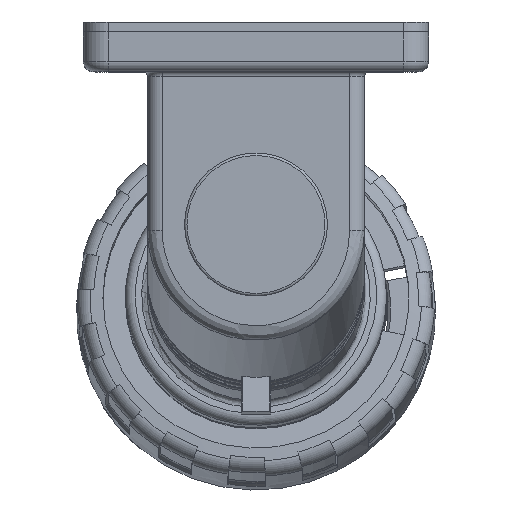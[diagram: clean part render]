
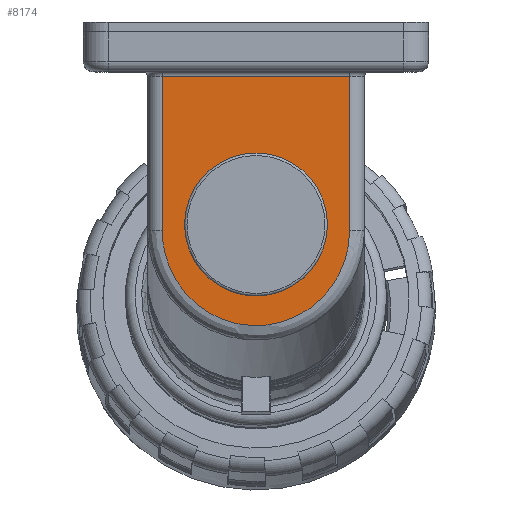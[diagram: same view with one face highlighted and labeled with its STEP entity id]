
A CAD part, top view. The second image highlights one B-rep face of the part: STEP entity #8174.
In plain terms, the highlighted planar face has unit normal (0, 0, 1).
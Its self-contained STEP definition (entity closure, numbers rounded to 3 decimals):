
#1648=FACE_BOUND('',#11912,.T.);
#1649=FACE_BOUND('',#11913,.T.);
#1765=ELLIPSE('',#29057,19.293,19.);
#4178=LINE('',#45972,#6312);
#4179=LINE('',#45974,#6313);
#4191=LINE('',#46056,#6325);
#6312=VECTOR('',#34684,1.);
#6313=VECTOR('',#34687,1.);
#6325=VECTOR('',#34741,1.);
#8174=ADVANCED_FACE('',(#1648,#1649),#9205,.F.);
#9205=PLANE('',#29528);
#11912=EDGE_LOOP('',(#17424,#17425,#17426,#17427));
#11913=EDGE_LOOP('',(#17428));
#17424=ORIENTED_EDGE('',*,*,#25232,.T.);
#17425=ORIENTED_EDGE('',*,*,#25258,.F.);
#17426=ORIENTED_EDGE('',*,*,#25233,.F.);
#17427=ORIENTED_EDGE('',*,*,#24739,.F.);
#17428=ORIENTED_EDGE('',*,*,#25523,.T.);
#21711=VERTEX_POINT('',#44784);
#21712=VERTEX_POINT('',#44785);
#22040=VERTEX_POINT('',#45971);
#22041=VERTEX_POINT('',#45975);
#22210=VERTEX_POINT('',#47045);
#24739=EDGE_CURVE('',#21711,#21712,#1765,.T.);
#25232=EDGE_CURVE('',#21711,#22040,#4178,.T.);
#25233=EDGE_CURVE('',#21712,#22041,#4179,.T.);
#25258=EDGE_CURVE('',#22041,#22040,#4191,.T.);
#25523=EDGE_CURVE('',#22210,#22210,#27512,.T.);
#27512=CIRCLE('',#29525,14.5);
#29057=AXIS2_PLACEMENT_3D('',#44783,#33788,#33789);
#29525=AXIS2_PLACEMENT_3D('',#47044,#35278,#35279);
#29528=AXIS2_PLACEMENT_3D('',#47049,#35284,#35285);
#33788=DIRECTION('',(0.,0.,-1.));
#33789=DIRECTION('',(0.,-1.,0.));
#34684=DIRECTION('',(0.,1.,0.));
#34687=DIRECTION('',(0.,1.,0.));
#34741=DIRECTION('',(1.,0.,0.));
#35278=DIRECTION('',(0.,0.,-1.));
#35279=DIRECTION('',(1.,0.,0.));
#35284=DIRECTION('',(0.,0.,-1.));
#35285=DIRECTION('',(-1.,0.,0.));
#44783=CARTESIAN_POINT('',(0.,-21.984,81.276));
#44784=CARTESIAN_POINT('',(19.,-21.984,81.276));
#44785=CARTESIAN_POINT('',(-19.,-21.984,81.276));
#45971=CARTESIAN_POINT('',(19.,9.287,81.276));
#45972=CARTESIAN_POINT('',(19.,-21.984,81.276));
#45974=CARTESIAN_POINT('',(-19.,-21.984,81.276));
#45975=CARTESIAN_POINT('',(-19.,9.287,81.276));
#46056=CARTESIAN_POINT('',(-19.,9.287,81.276));
#47044=CARTESIAN_POINT('',(0.,-20.765,81.276));
#47045=CARTESIAN_POINT('',(14.5,-20.765,81.276));
#47049=CARTESIAN_POINT('',(-36.,113.211,81.276));
